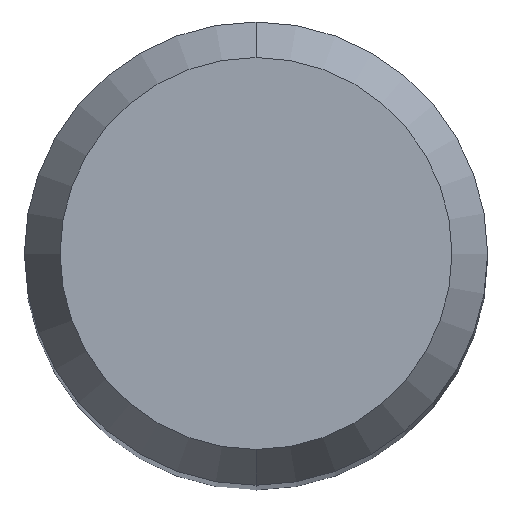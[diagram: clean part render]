
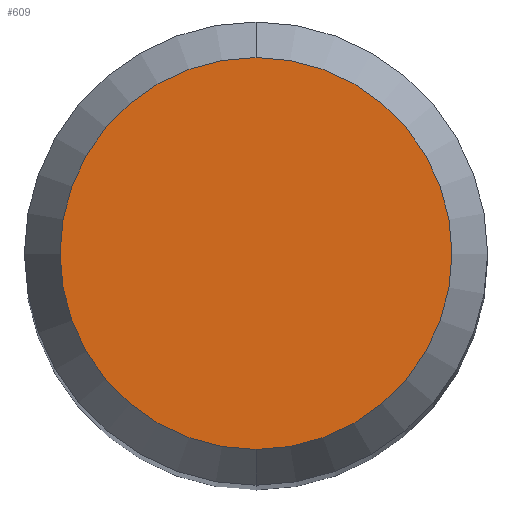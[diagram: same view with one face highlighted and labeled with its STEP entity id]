
A CAD part, top view. The second image highlights one B-rep face of the part: STEP entity #609.
In plain terms, the highlighted planar face has unit normal (0, 0, 1).
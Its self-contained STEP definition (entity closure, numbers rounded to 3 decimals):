
#275=EDGE_CURVE('',#399,#515,#692,.T.);
#363=EDGE_CURVE('',#515,#399,#788,.T.);
#399=VERTEX_POINT('',#827);
#515=VERTEX_POINT('',#960);
#609=ADVANCED_FACE('',(#1060),#1061,.T.);
#692=CIRCLE('',#1154,2.538);
#788=CIRCLE('',#1288,2.538);
#827=CARTESIAN_POINT('',(0.,-2.538,0.0));
#960=CARTESIAN_POINT('',(0.0,2.538,0.0));
#1060=FACE_OUTER_BOUND('',#1849,.T.);
#1061=PLANE('',#1850);
#1154=AXIS2_PLACEMENT_3D('',#1942,#1943,#1944);
#1288=AXIS2_PLACEMENT_3D('',#2066,#2067,#2068);
#1849=EDGE_LOOP('',(#2357,#2358));
#1850=AXIS2_PLACEMENT_3D('',#2359,#2360,#2361);
#1942=CARTESIAN_POINT('',(0.0,0.0,0.0));
#1943=DIRECTION('',(0.0,0.0,-1.0));
#1944=DIRECTION('',(0.0,1.0,0.0));
#2066=CARTESIAN_POINT('',(0.0,0.0,0.0));
#2067=DIRECTION('',(0.0,0.0,-1.0));
#2068=DIRECTION('',(0.0,1.0,0.0));
#2357=ORIENTED_EDGE('',*,*,#363,.F.);
#2358=ORIENTED_EDGE('',*,*,#275,.F.);
#2359=CARTESIAN_POINT('',(0.0,1.269,0.0));
#2360=DIRECTION('',(-0.0,0.0,1.0));
#2361=DIRECTION('',(0.0,-1.0,0.0));
